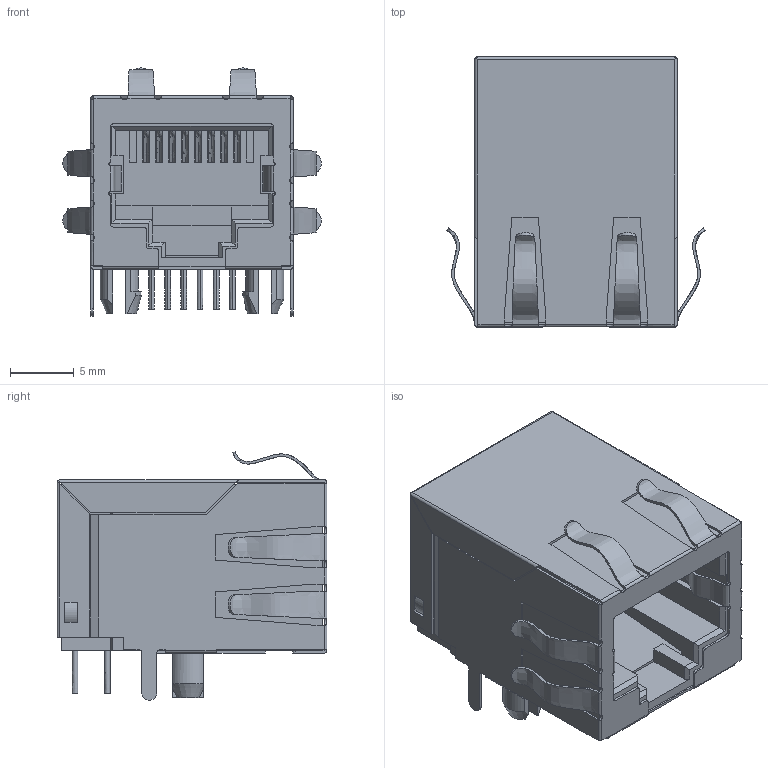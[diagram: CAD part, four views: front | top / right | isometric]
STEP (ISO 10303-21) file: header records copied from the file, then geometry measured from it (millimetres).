
FILE_DESCRIPTION((''),'2;1');
FILE_NAME('PRT0004','2019-05-31T20:40:21',('Administrator'),(''),'CREO PARAMETRIC BY PTC INC, 2018400','CREO PARAMETRIC BY PTC INC, 2018400','');
FILE_SCHEMA(('CONFIG_CONTROL_DESIGN'));
Products named in the file (1): PRT0004
Bounding box: 20.3 x 21.2 x 19.5 mm (x, y, z)
Volume: 2632.8 mm3; surface area: 6597.3 mm2
Topology: 7 solids, 7 shells, 710 faces, 2056 edges, 1304 vertices
Faces by surface type: plane 498, cylinder 148, cone 30, extrusion 18, bspline 16
Entity records: 55913 total; most frequent: CARTESIAN_POINT 37411, ORIENTED_EDGE 4112, DIRECTION 3494, EDGE_CURVE 2056, VECTOR 1506, LINE 1488, VERTEX_POINT 1304, AXIS2_PLACEMENT_3D 994
